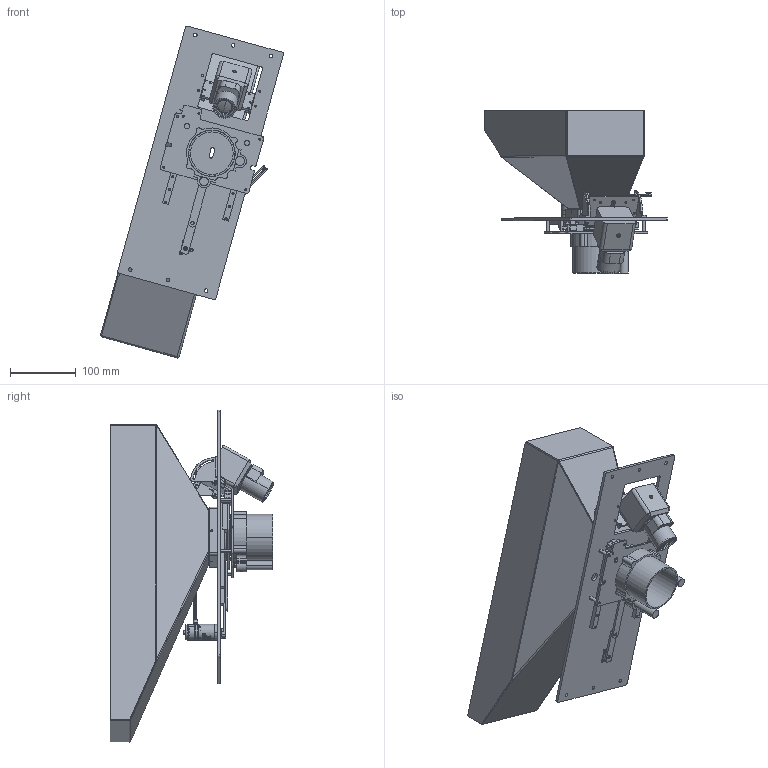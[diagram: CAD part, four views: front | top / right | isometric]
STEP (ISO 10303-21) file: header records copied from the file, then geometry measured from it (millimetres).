
FILE_DESCRIPTION((''),'2;1');
FILE_NAME('ASM-BJZDCZZ_ASM','2019-02-03T',('Terry.Xue'),(''),'CREO PARAMETRIC BY PTC INC, 2017480','CREO PARAMETRIC BY PTC INC, 2017480','');
FILE_SCHEMA(('CONFIG_CONTROL_DESIGN'));
Products named in the file (24): 1-LUODANKOUV3; XIANGJIGDB; 1-JIAODUTIAOJIEQI; 1-JIAODUTIAOJIE; 1-XIANGJIZHUANZHOULIANJIEJIAN; 1-XIANGJIGUDINGBAN; ___-_____; 1-ZHUANZHOUBAN; 1-2006DIANPIAN; ROBOMASTER_M2006_P36_; 1-KGGD; HK; 1-KGDZDB; 1-KGLG; 1-KGLG-2; 1-KGLZ15; 1-KGDB; 1-KGLDK; 1-DANGCANG-ASM; __-__6; 1-70-65GUAN; 1-JIGUANGDENGGUDINGGUAN; 1-NEW-JIGUANGDENG; ASM-BJZDCZZ_ASM
Assembly tree (32 placements, depth 2):
  ASM-BJZDCZZ_ASM
    1-LUODANKOUV3
    XIANGJIGDB
    1-JIAODUTIAOJIEQI
    1-JIAODUTIAOJIE
    1-XIANGJIZHUANZHOULIANJIEJIAN  x2
    1-XIANGJIGUDINGBAN
    ___-_____
    1-ZHUANZHOUBAN  x2
    1-2006DIANPIAN
    ROBOMASTER_M2006_P36_
    1-KGGD  x2
    HK  x2
    1-KGDZDB
    1-KGLG
    1-KGLG-2
    1-KGLZ15  x4
    1-KGDB
    1-KGLDK
    1-DANGCANG-ASM
    __-__6
    1-70-65GUAN
    1-JIGUANGDENGGUDINGGUAN  x2
    1-NEW-JIGUANGDENG  x2
Bounding box: 278.76 x 249.61 x 505.89 mm (x, y, z)
Volume: 825200.3 mm3; surface area: 612738.3 mm2
Topology: 32 solids, 40 shells, 3176 faces, 8676 edges, 5723 vertices
Faces by surface type: plane 1399, cylinder 811, bspline 731, extrusion 119, cone 108, torus 6, sphere 2
Entity records: 131239 total; most frequent: CARTESIAN_POINT 55885, ORIENTED_EDGE 16756, DIRECTION 13360, EDGE_CURVE 8378, VERTEX_POINT 5535, AXIS2_PLACEMENT_3D 4498, VECTOR 4364, LINE 4245
